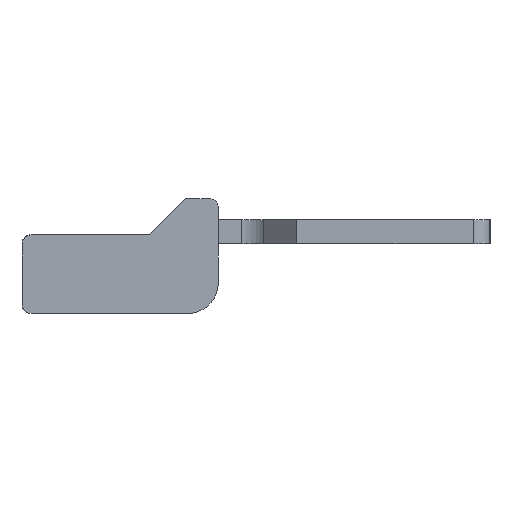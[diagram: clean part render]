
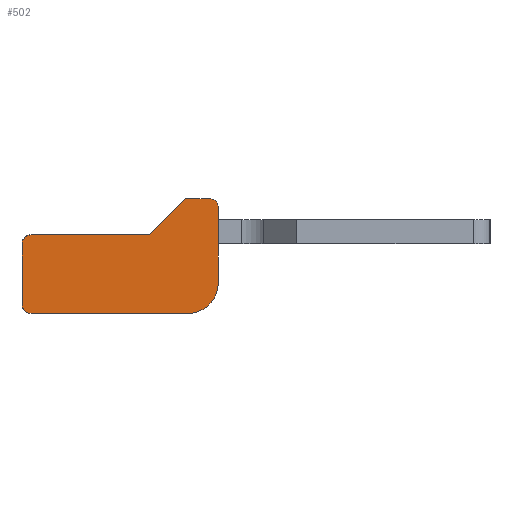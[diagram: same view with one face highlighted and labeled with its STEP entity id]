
A CAD part, left-side view. The second image highlights one B-rep face of the part: STEP entity #502.
In plain terms, the highlighted planar face has unit normal (-1, 0, 0).
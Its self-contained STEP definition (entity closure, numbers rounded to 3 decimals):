
#101=FACE_OUTER_BOUND('',#923,.T.);
#368=CIRCLE('',#4267,0.3);
#371=CIRCLE('',#4273,1.);
#374=CIRCLE('',#4279,0.3);
#375=CIRCLE('',#4280,0.3);
#502=ADVANCED_FACE('',(#101),#713,.F.);
#713=PLANE('',#4281);
#923=EDGE_LOOP('',(#1206,#1207,#1208,#1209,#1210,#1211,#1212,#1213,#1214,
#1215,#1216));
#1206=ORIENTED_EDGE('',*,*,#2799,.T.);
#1207=ORIENTED_EDGE('',*,*,#2802,.T.);
#1208=ORIENTED_EDGE('',*,*,#2811,.T.);
#1209=ORIENTED_EDGE('',*,*,#2812,.T.);
#1210=ORIENTED_EDGE('',*,*,#2813,.T.);
#1211=ORIENTED_EDGE('',*,*,#2814,.T.);
#1212=ORIENTED_EDGE('',*,*,#2815,.F.);
#1213=ORIENTED_EDGE('',*,*,#2816,.F.);
#1214=ORIENTED_EDGE('',*,*,#2804,.T.);
#1215=ORIENTED_EDGE('',*,*,#2754,.T.);
#1216=ORIENTED_EDGE('',*,*,#2794,.T.);
#2340=VERTEX_POINT('',#5813);
#2341=VERTEX_POINT('',#5814);
#2380=VERTEX_POINT('',#5901);
#2383=VERTEX_POINT('',#5909);
#2385=VERTEX_POINT('',#5915);
#2387=VERTEX_POINT('',#5921);
#2392=VERTEX_POINT('',#5936);
#2393=VERTEX_POINT('',#5938);
#2394=VERTEX_POINT('',#5940);
#2395=VERTEX_POINT('',#5942);
#2396=VERTEX_POINT('',#5944);
#2754=EDGE_CURVE('',#2340,#2341,#3354,.T.);
#2794=EDGE_CURVE('',#2341,#2380,#368,.T.);
#2799=EDGE_CURVE('',#2380,#2383,#3389,.T.);
#2802=EDGE_CURVE('',#2383,#2385,#3392,.T.);
#2804=EDGE_CURVE('',#2387,#2340,#371,.T.);
#2811=EDGE_CURVE('',#2385,#2392,#3397,.T.);
#2812=EDGE_CURVE('',#2392,#2393,#374,.T.);
#2813=EDGE_CURVE('',#2393,#2394,#3398,.T.);
#2814=EDGE_CURVE('',#2394,#2395,#375,.T.);
#2815=EDGE_CURVE('',#2396,#2395,#3399,.T.);
#2816=EDGE_CURVE('',#2387,#2396,#3400,.T.);
#3354=LINE('',#5812,#3802);
#3389=LINE('',#5910,#3837);
#3392=LINE('',#5916,#3840);
#3397=LINE('',#5935,#3845);
#3398=LINE('',#5939,#3846);
#3399=LINE('',#5943,#3847);
#3400=LINE('',#5945,#3848);
#3802=VECTOR('',#4623,1.);
#3837=VECTOR('',#4696,1.);
#3840=VECTOR('',#4701,1.);
#3845=VECTOR('',#4722,1.);
#3846=VECTOR('',#4725,1.);
#3847=VECTOR('',#4728,1.);
#3848=VECTOR('',#4729,1.);
#4267=AXIS2_PLACEMENT_3D('',#5900,#4687,#4688);
#4273=AXIS2_PLACEMENT_3D('',#5920,#4706,#4707);
#4279=AXIS2_PLACEMENT_3D('',#5937,#4723,#4724);
#4280=AXIS2_PLACEMENT_3D('',#5941,#4726,#4727);
#4281=AXIS2_PLACEMENT_3D('',#5946,#4730,#4731);
#4623=DIRECTION('',(0.,0.,1.));
#4687=DIRECTION('',(-1.,0.,0.));
#4688=DIRECTION('',(0.,0.,-1.));
#4696=DIRECTION('',(0.,1.,0.));
#4701=DIRECTION('',(0.,0.707,-0.707));
#4706=DIRECTION('',(-1.,0.,0.));
#4707=DIRECTION('',(0.,0.,-1.));
#4722=DIRECTION('',(0.,1.,0.));
#4723=DIRECTION('',(-1.,0.,0.));
#4724=DIRECTION('',(0.,0.,-1.));
#4725=DIRECTION('',(0.,0.,-1.));
#4726=DIRECTION('',(-1.,0.,0.));
#4727=DIRECTION('',(0.,0.,-1.));
#4728=DIRECTION('',(0.,1.,0.));
#4729=DIRECTION('',(0.,1.,0.));
#4730=DIRECTION('',(1.,0.,0.));
#4731=DIRECTION('',(0.,0.,-1.));
#5812=CARTESIAN_POINT('',(-20.75,75.9,0.1));
#5813=CARTESIAN_POINT('',(-20.75,75.9,-1.4));
#5814=CARTESIAN_POINT('',(-20.75,75.9,1.1));
#5900=CARTESIAN_POINT('',(-20.75,76.2,1.1));
#5901=CARTESIAN_POINT('',(-20.75,76.2,1.4));
#5909=CARTESIAN_POINT('',(-20.75,76.98,1.4));
#5910=CARTESIAN_POINT('',(-20.75,71.6,1.4));
#5915=CARTESIAN_POINT('',(-20.75,78.18,0.2));
#5916=CARTESIAN_POINT('',(-20.75,77.39,0.99));
#5920=CARTESIAN_POINT('',(-20.75,76.9,-1.4));
#5921=CARTESIAN_POINT('',(-20.75,76.9,-2.4));
#5935=CARTESIAN_POINT('',(-20.75,81.2,0.2));
#5936=CARTESIAN_POINT('',(-20.75,82.1,0.2));
#5937=CARTESIAN_POINT('',(-20.75,82.1,-0.1));
#5938=CARTESIAN_POINT('',(-20.75,82.4,-0.1));
#5939=CARTESIAN_POINT('',(-20.75,82.4,-2.5));
#5940=CARTESIAN_POINT('',(-20.75,82.4,-2.1));
#5941=CARTESIAN_POINT('',(-20.75,82.1,-2.1));
#5942=CARTESIAN_POINT('',(-20.75,82.1,-2.4));
#5943=CARTESIAN_POINT('',(-20.75,81.2,-2.4));
#5944=CARTESIAN_POINT('',(-20.75,78.505,-2.4));
#5945=CARTESIAN_POINT('',(-20.75,78.2,-2.4));
#5946=CARTESIAN_POINT('',(-20.75,81.2,-2.5));
